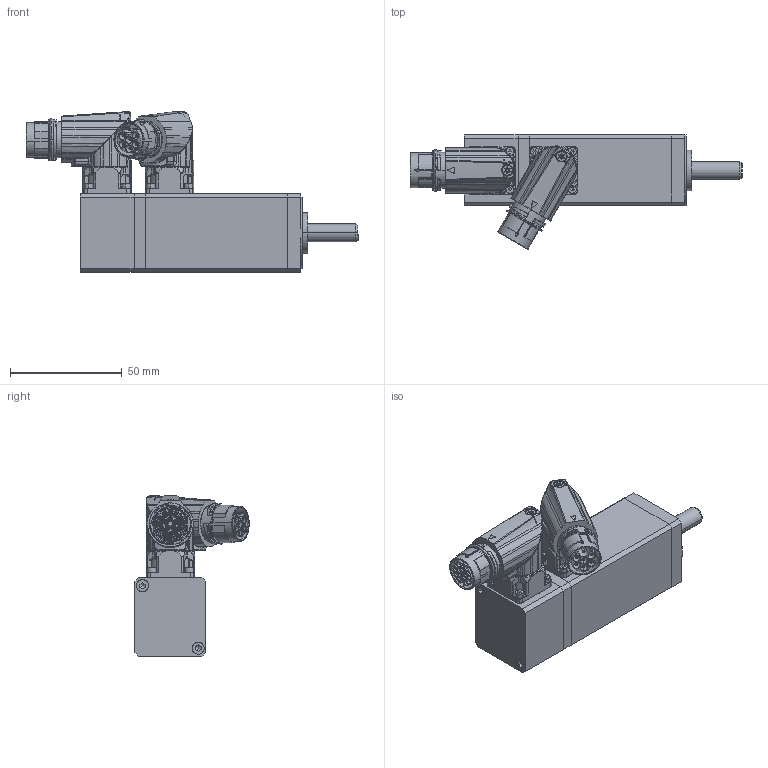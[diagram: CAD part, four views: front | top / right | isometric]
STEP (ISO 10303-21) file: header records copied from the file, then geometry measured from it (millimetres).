
FILE_DESCRIPTION(('CATIA V5 STEP Exchange'),'2;1');
FILE_NAME('C:\Documents and Settings\max\Documenti\sangallimotori\3d step\tg0\motore_DSM5_01.stp','2010-12-12T20:47:50+00:00',('none'),('none'),'CATIA Version 5 Release 10 (IN-8)','CATIA V5 STEP AP203',' none');
FILE_SCHEMA(('CONFIG_CONTROL_DESIGN'));
Assembly tree (27 placements, depth 0):
Bounding box: 148.25 x 51.05 x 71.55 mm (x, y, z)
Volume: 131037.4 mm3; surface area: 41941.7 mm2
Topology: 24 solids, 25 shells, 3495 faces, 11285 edges, 7878 vertices
Faces by surface type: cylinder 1311, bspline 808, plane 727, cone 292, torus 261, sphere 96
Entity records: 172499 total; most frequent: CARTESIAN_POINT 95320, ORIENTED_EDGE 20884, EDGE_CURVE 10455, DIRECTION 9051, VERTEX_POINT 7389, B_SPLINE_CURVE_WITH_KNOTS 5125, AXIS2_PLACEMENT_3D 4349, EDGE_LOOP 3281
